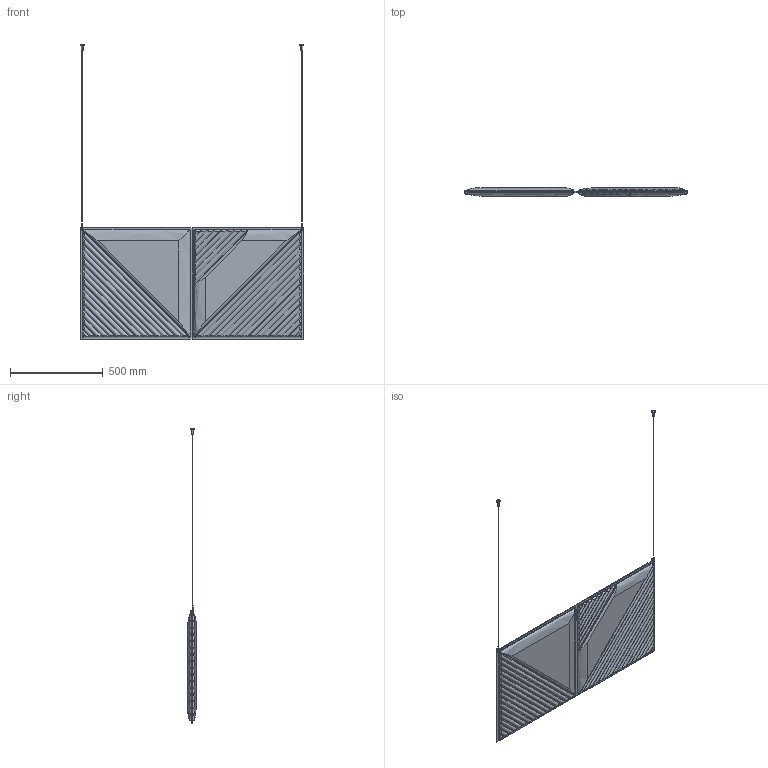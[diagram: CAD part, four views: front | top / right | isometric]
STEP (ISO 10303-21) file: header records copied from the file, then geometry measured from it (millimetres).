
FILE_DESCRIPTION(/* description */ (''),/* implementation_level */ '2;1');
FILE_NAME(/* name */ 'B2',/* time_stamp */ '2022-12-22T15:27:16+01:00',/* author */ (''),/* organization */ (''),/* preprocessor_version */ 'ST-DEVELOPER v16.5',/* originating_system */ 'Rhino 7.22',/* authorisation */ '');
FILE_SCHEMA (('CONFIG_CONTROL_DESIGN'));
Length unit declared in the file: millimetre
Products named in the file (1): Document
Bounding box: 1203.13 x 45 x 1584.86 mm (x, y, z)
Volume: 21132444.5 mm3; surface area: 4533946.2 mm2
Topology: 11 solids, 11 shells, 381 faces, 973 edges, 620 vertices
Faces by surface type: cylinder 162, bspline 158, plane 61
Entity records: 20199 total; most frequent: CARTESIAN_POINT 13991, ORIENTED_EDGE 1946, EDGE_CURVE 973, VERTEX_POINT 620, B_SPLINE_CURVE_WITH_KNOTS 603, EDGE_LOOP 399, ADVANCED_FACE 381, FACE_OUTER_BOUND 381
